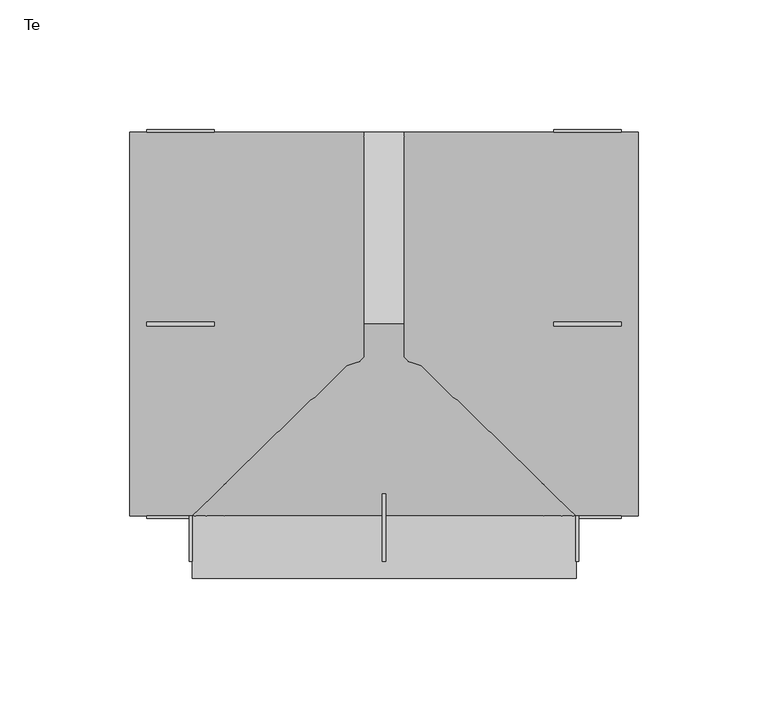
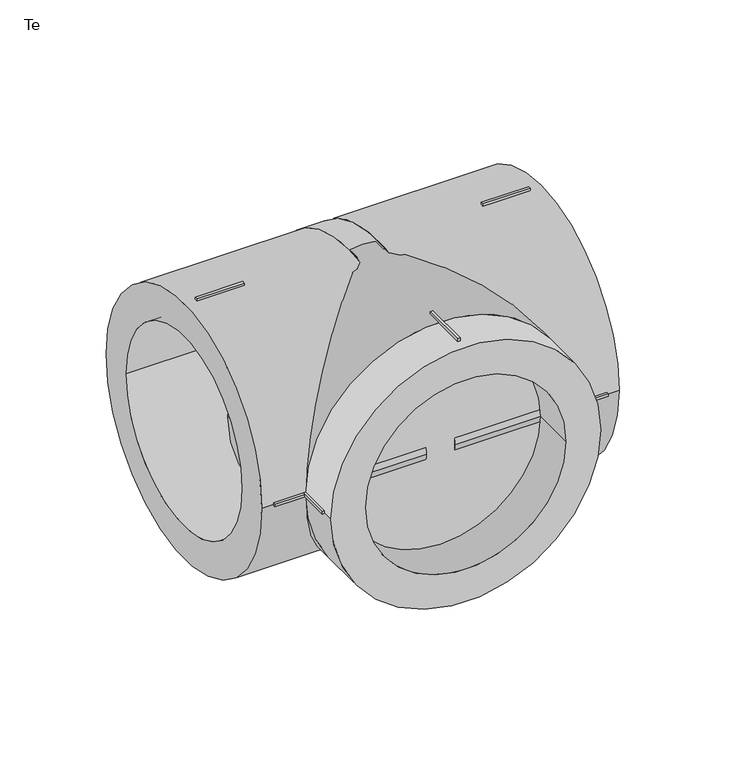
"""IFC4 building model written with IfcOpenShell, lengths in millimetres: pipe fitting geometry, EGB_VASEN_ PPR_Te WXR300_Te reducida WXR310 : Te."""

from ifc_helpers import new_model, si_unit, point, frame, origin, origin_2d, place, context, project, spatial, polyline, circle_curve, trimmed, segment, composite_curve, outline, extrude, source, transform, mapped, element, save


def te_dc85bfde(model_context):
    return source(origin(), model_context, "Body", "SweptSolid", [
        extrude(outline(polyline([(-0.75, -65.5), (0.75, -65.5), (0.75, -91.5), (-0.75, -91.5), (-0.75, -65.5)])), frame((0.0, 0.0, 73.0), z_axis=(0.0, 0.0, 1.0), x_axis=(1.0, 0.0, 0.0)), (0.0, 0.0, 1.0), 2.0),
        extrude(outline(polyline([(-0.75, -65.5), (0.75, -65.5), (0.75, -91.5), (-0.75, -91.5), (-0.75, -65.5)])), frame((0.0, 0.0, -75.0), z_axis=(0.0, 0.0, 1.0), x_axis=(1.0, 0.0, 0.0)), (0.0, 0.0, 1.0), 2.0),
        extrude(outline(polyline([(73.0, -65.5), (75.0, -65.5), (75.0, -91.5), (73.0, -91.5), (73.0, -65.5)])), frame((0.0, 0.0, -0.75), z_axis=(0.0, 0.0, 1.0), x_axis=(1.0, 0.0, 0.0)), (0.0, 0.0, 1.0), 1.5),
        extrude(outline(polyline([(-75.0, -65.5), (-73.0, -65.5), (-73.0, -91.5), (-75.0, -91.5), (-75.0, -65.5)])), frame((0.0, 0.0, -0.75), z_axis=(0.0, 0.0, 1.0), x_axis=(1.0, 0.0, 0.0)), (0.0, 0.0, 1.0), 1.5),
        extrude(outline(polyline([(65.5, -0.75), (65.5, 0.75), (91.5, 0.75), (91.5, -0.75), (65.5, -0.75)])), frame((0.0, 0.0, 73.0), z_axis=(0.0, 0.0, 1.0), x_axis=(1.0, 0.0, 0.0)), (0.0, 0.0, 1.0), 2.0),
        extrude(outline(polyline([(65.5, -0.75), (65.5, 0.75), (91.5, 0.75), (91.5, -0.75), (65.5, -0.75)])), frame((0.0, 0.0, -75.0), z_axis=(0.0, 0.0, 1.0), x_axis=(1.0, 0.0, 0.0)), (0.0, 0.0, 1.0), 2.0),
        extrude(outline(polyline([(65.5, 73.0), (65.5, 75.0), (91.5, 75.0), (91.5, 73.0), (65.5, 73.0)])), frame((0.0, 0.0, -0.75), z_axis=(0.0, 0.0, 1.0), x_axis=(1.0, 0.0, 0.0)), (0.0, 0.0, 1.0), 1.5),
        extrude(outline(polyline([(65.5, -75.0), (65.5, -73.0), (91.5, -73.0), (91.5, -75.0), (65.5, -75.0)])), frame((0.0, 0.0, -0.75), z_axis=(0.0, 0.0, 1.0), x_axis=(1.0, 0.0, 0.0)), (0.0, 0.0, 1.0), 1.5),
        extrude(outline(polyline([(-65.5, 0.75), (-65.5, -0.75), (-91.5, -0.75), (-91.5, 0.75), (-65.5, 0.75)])), frame((0.0, 0.0, 73.0), z_axis=(0.0, 0.0, 1.0), x_axis=(1.0, 0.0, 0.0)), (0.0, 0.0, 1.0), 2.0),
        extrude(outline(polyline([(-65.5, 0.75), (-65.5, -0.75), (-91.5, -0.75), (-91.5, 0.75), (-65.5, 0.75)])), frame((0.0, 0.0, -75.0), z_axis=(0.0, 0.0, 1.0), x_axis=(1.0, 0.0, 0.0)), (0.0, 0.0, 1.0), 2.0),
        extrude(outline(polyline([(-65.5, 75.0), (-65.5, 73.0), (-91.5, 73.0), (-91.5, 75.0), (-65.5, 75.0)])), frame((0.0, 0.0, -0.75), z_axis=(0.0, 0.0, 1.0), x_axis=(1.0, 0.0, 0.0)), (0.0, 0.0, 1.0), 1.5),
        extrude(outline(polyline([(-65.5, -73.0), (-65.5, -75.0), (-91.5, -75.0), (-91.5, -73.0), (-65.5, -73.0)])), frame((0.0, 0.0, -0.75), z_axis=(0.0, 0.0, 1.0), x_axis=(1.0, 0.0, 0.0)), (0.0, 0.0, 1.0), 1.5),
        extrude(outline(composite_curve([segment(trimmed(circle_curve(origin_2d(), 74.0), [point((0.0, 74.0))], [point((0.0, -74.0))], False, "CARTESIAN"), True, "CONTINUOUS"), segment(trimmed(circle_curve(origin_2d(), 74.0), [point((0.0, -74.0))], [point((0.0, 74.0))], False, "CARTESIAN"), True, "CONTINUOUS")], self_intersect=False), holes=[composite_curve([segment(trimmed(circle_curve(origin_2d(), 55.0), [point((0.0, 55.0))], [point((0.0, -55.0))], True, "CARTESIAN"), True, "CONTINUOUS"), segment(trimmed(circle_curve(origin_2d(), 55.0), [point((0.0, -55.0))], [point((0.0, 55.0))], True, "CARTESIAN"), True, "CONTINUOUS")], self_intersect=False)]), frame((0.0, -98.0, 0.0), z_axis=(0.0, 1.0, 0.0), x_axis=(0.0, 0.0, 1.0)), (0.0, 0.0, 1.0), 24.0),
        extrude(outline(composite_curve([segment(trimmed(circle_curve(origin_2d(), 74.0), [point((-74.0, 0.0))], [point((74.0, 0.0))], False, "CARTESIAN"), True, "CONTINUOUS"), segment(trimmed(circle_curve(origin_2d(), 74.0), [point((74.0, 0.0))], [point((-74.0, 0.0))], False, "CARTESIAN"), True, "CONTINUOUS")], self_intersect=False), holes=[composite_curve([segment(trimmed(circle_curve(origin_2d(), 55.0), [point((-55.0, 0.0))], [point((55.0, 0.0))], True, "CARTESIAN"), True, "CONTINUOUS"), segment(trimmed(circle_curve(origin_2d(), 55.0), [point((55.0, 0.0))], [point((-55.0, 0.0))], True, "CARTESIAN"), True, "CONTINUOUS")], self_intersect=False)]), frame((7.84, 0.0, 0.0), z_axis=(1.0, 0.0, 0.0), x_axis=(0.0, 1.0, 0.0)), (0.0, 0.0, 1.0), 90.16),
        extrude(outline(composite_curve([segment(trimmed(circle_curve(origin_2d(), 74.0), [point((-74.0, 0.0))], [point((74.0, 0.0))], False, "CARTESIAN"), True, "CONTINUOUS"), segment(trimmed(circle_curve(origin_2d(), 74.0), [point((74.0, 0.0))], [point((-74.0, 0.0))], False, "CARTESIAN"), True, "CONTINUOUS")], self_intersect=False), holes=[composite_curve([segment(trimmed(circle_curve(origin_2d(), 55.0), [point((-55.0, 0.0))], [point((55.0, 0.0))], True, "CARTESIAN"), True, "CONTINUOUS"), segment(trimmed(circle_curve(origin_2d(), 55.0), [point((55.0, 0.0))], [point((-55.0, 0.0))], True, "CARTESIAN"), True, "CONTINUOUS")], self_intersect=False)]), frame((-98.0, 0.0, 0.0), z_axis=(1.0, 0.0, 0.0), x_axis=(0.0, 1.0, 0.0)), (0.0, 0.0, 1.0), 90.16),
        extrude(outline(composite_curve([segment(trimmed(circle_curve(origin_2d(), 74.0), [point((0.0, 74.0))], [point((0.0, -74.0))], False, "CARTESIAN"), True, "CONTINUOUS"), segment(trimmed(circle_curve(origin_2d(), 74.0), [point((0.0, -74.0))], [point((0.0, 74.0))], False, "CARTESIAN"), True, "CONTINUOUS")], self_intersect=False)), frame((0.0, -74.0, 0.0), z_axis=(0.0, 1.0, 0.0), x_axis=(0.0, 0.0, 1.0)), (0.0, 0.0, 1.0), 74.0),
        extrude(outline(composite_curve([segment(trimmed(circle_curve(origin_2d(), 74.0), [point((-74.0, 0.0))], [point((74.0, 0.0))], False, "CARTESIAN"), True, "CONTINUOUS"), segment(trimmed(circle_curve(origin_2d(), 74.0), [point((74.0, 0.0))], [point((-74.0, 0.0))], False, "CARTESIAN"), True, "CONTINUOUS")], self_intersect=False)), frame((-7.84, 0.0, 0.0), z_axis=(1.0, 0.0, 0.0), x_axis=(0.0, 1.0, 0.0)), (0.0, 0.0, 1.0), 15.68),
    ])


if __name__ == "__main__":
    model = new_model("IFC4")
    model_context = context("Model", 3, world=origin())
    ifc_project = project(units=[si_unit("LENGTHUNIT", "METRE", prefix="MILLI")], contexts=[model_context])
    site = spatial("IfcSite", under=ifc_project)
    building = spatial("IfcBuilding", under=site)
    placement = place(None, origin())
    te_shape = te_dc85bfde(model_context)
    element("IfcPipeFitting", 1, ObjectType="EGB_VASEN_ PPR_Te WXR300_Te reducida WXR310 : Te", at=placement, inside=building, context=model_context, shape_type="MappedRepresentation", body=[
        mapped(te_shape, transform((0.0, 0.0, 0.0), x_axis=(1.0, 0.0, 0.0), y_axis=(0.0, 1.0, 0.0), z_axis=(0.0, 0.0, 1.0))),
    ])
    save(model, "model.ifc")
